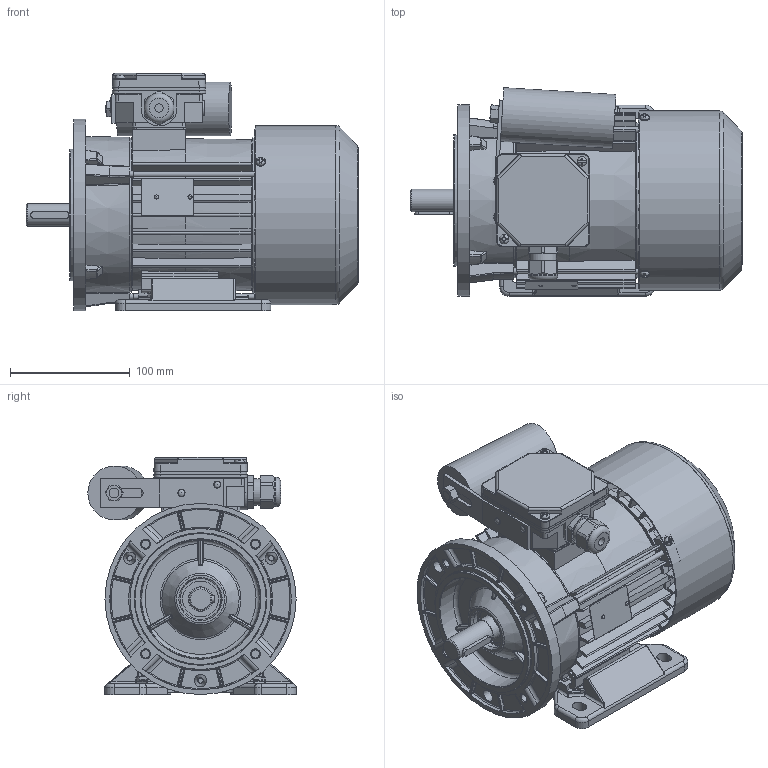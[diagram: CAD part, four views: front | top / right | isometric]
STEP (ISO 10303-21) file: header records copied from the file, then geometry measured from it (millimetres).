
FILE_DESCRIPTION(/* description */ ('Unknown'),/* implementation_level */ '2;1');
FILE_NAME(/* name */ '3SSIEL80-4A1',/* time_stamp */ '2024-06-18T07:19:08+02:00',/* author */ ('Unknown'),/* organization */ ('Unknown'),/* preprocessor_version */ 'ST-DEVELOPER v16.7',/* originating_system */ 'Solid Edge',/* authorisation */ 'Unknown');
FILE_SCHEMA (('AUTOMOTIVE_DESIGN {1 0 10303 214 3 1 1}'));
Products named in the file (1): Czêœæ8
Bounding box: 277.78 x 174.3 x 198.5 mm (x, y, z)
Volume: 1232481.1 mm3; surface area: 561923.8 mm2
Topology: 3 solids, 3 shells, 3121 faces, 8609 edges, 5514 vertices
Faces by surface type: plane 1364, cylinder 928, bspline 370, torus 248, cone 181, sphere 30
Full cylindrical faces by diameter (mm): 2 x2, 2.4 x2, 3 x1, 3.7 x8, 4 x6, 4.2 x3, 4.3 x2, 4.5 x3, 4.6 x3, 4.8 x2, 5 x5, 5.5 x3, 6 x2, 6.5 x5, 6.8 x4, 7 x1, 8 x10, 18.998 x1, 19.298 x1, 19.498 x1, 20.298 x2, 20.398 x2, 20.4 x2, 22.3 x1, 25 x1, 25.497 x1, 25.997 x2, 26.097 x1, 26.997 x1, 28.799 x4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
Entity records: 126598 total; most frequent: CARTESIAN_POINT 30575, ORIENTED_EDGE 16436, DIRECTION 14824, EDGE_CURVE 8218, AXIS2_PLACEMENT_3D 5552, VERTEX_POINT 5371, LINE 3720, VECTOR 3720
